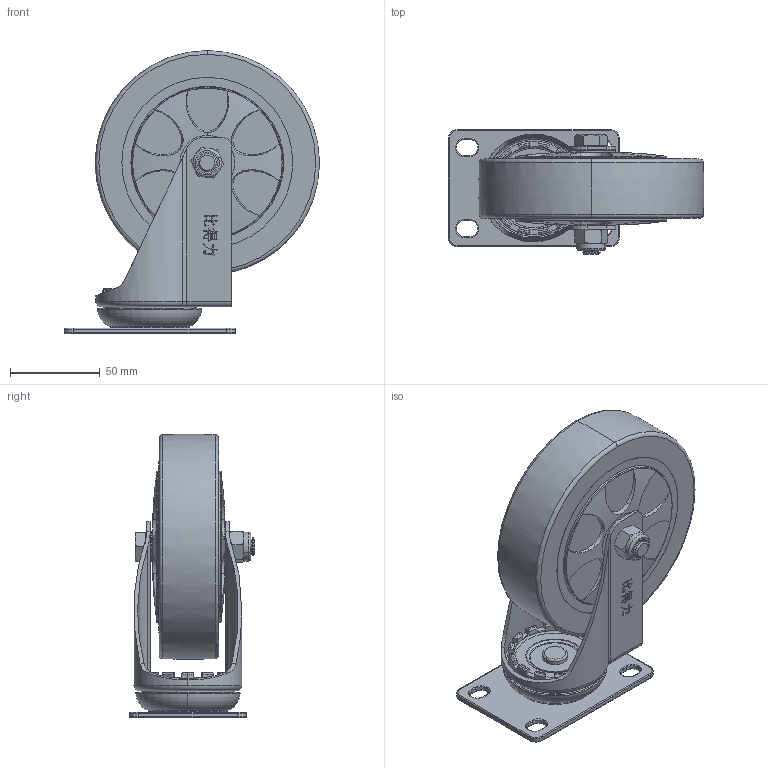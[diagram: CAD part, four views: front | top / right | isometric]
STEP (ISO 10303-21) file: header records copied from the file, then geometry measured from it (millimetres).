
FILE_DESCRIPTION (( 'STEP AP203' ), '1' );
FILE_NAME ('5寸中载PU无刹万向轮.STEP', '2023-03-06T08:59:37', ( 'amidn' ), ( '' ), 'SwSTEP 2.0', 'SolidWorks 2018', '' );
FILE_SCHEMA (( 'CONFIG_CONTROL_DESIGN' ));
Length unit declared in the file: millimetre
Products named in the file (8): 5______________PU-________.STEP; 4________________.STEP; 4______.STEP; hex bolt gradeab_din_DIN EN 24014 - M10 x 60 x 26-S.STEP; prevailing trq nut style 1 insert fine_din_DIN EN ISO 10512 - M10x1.25 - N.STEP; 5______PU__.STEP; 5寸中载PU无刹万向轮; 5寸中载PU-橡胶无刹万向轮.STEP
Assembly tree (7 placements, depth 3):
  5寸中载PU无刹万向轮
    5寸中载PU-橡胶无刹万向轮.STEP
      4________________.STEP
      4______.STEP
      5______PU__.STEP
      5______________PU-________.STEP
      hex bolt gradeab_din_DIN EN 24014 - M10 x 60 x 26-S.STEP
      prevailing trq nut style 1 insert fine_din_DIN EN ISO 10512 - M10x1.25 - N.STEP
Bounding box: 141.95 x 69.5 x 157.47 mm (x, y, z)
Volume: 493458.4 mm3; surface area: 97149.2 mm2
Topology: 7 solids, 7 shells, 702 faces, 1757 edges, 1110 vertices
Faces by surface type: plane 240, cylinder 148, cone 146, torus 118, bspline 50
Entity records: 27156 total; most frequent: CARTESIAN_POINT 9519, DIRECTION 3569, ORIENTED_EDGE 3514, EDGE_CURVE 1757, AXIS2_PLACEMENT_3D 1401, VERTEX_POINT 1110, VECTOR 767, LINE 767
